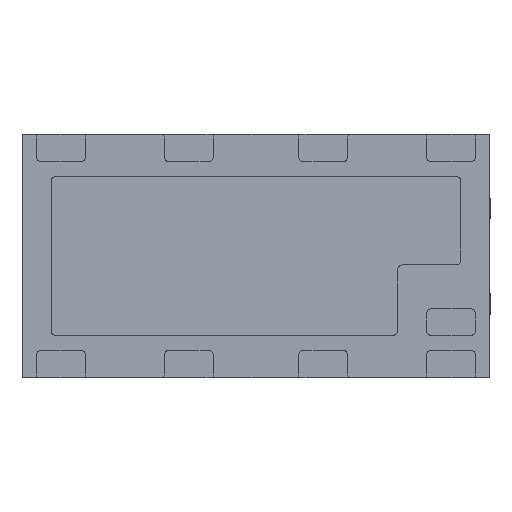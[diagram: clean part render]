
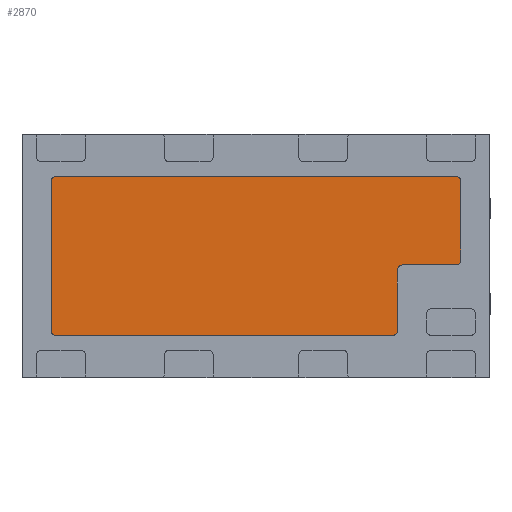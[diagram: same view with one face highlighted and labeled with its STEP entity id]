
A CAD part, front view. The second image highlights one B-rep face of the part: STEP entity #2870.
In plain terms, the highlighted planar face has unit normal (0, -1, 0).
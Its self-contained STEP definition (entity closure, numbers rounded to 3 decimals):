
#39=CIRCLE('',#2987,0.05);
#41=CIRCLE('',#2991,0.05);
#43=CIRCLE('',#2995,0.05);
#91=CIRCLE('',#3083,0.05);
#93=CIRCLE('',#3087,0.05);
#95=CIRCLE('',#3091,0.05);
#226=FACE_OUTER_BOUND('',#376,.T.);
#376=EDGE_LOOP('',(#2120,#2121,#2122,#2123,#2124,#2125,#2126,#2127,#2128,
#2129,#2130,#2131));
#480=LINE('',#4062,#819);
#485=LINE('',#4075,#824);
#489=LINE('',#4087,#828);
#579=LINE('',#4381,#918);
#583=LINE('',#4393,#922);
#587=LINE('',#4405,#926);
#819=VECTOR('',#3249,10.);
#824=VECTOR('',#3262,10.);
#828=VECTOR('',#3274,10.);
#918=VECTOR('',#3540,10.);
#922=VECTOR('',#3552,10.);
#926=VECTOR('',#3564,10.);
#1159=VERTEX_POINT('',#4059);
#1160=VERTEX_POINT('',#4061);
#1162=VERTEX_POINT('',#4067);
#1164=VERTEX_POINT('',#4073);
#1166=VERTEX_POINT('',#4079);
#1168=VERTEX_POINT('',#4085);
#1170=VERTEX_POINT('',#4091);
#1284=VERTEX_POINT('',#4379);
#1286=VERTEX_POINT('',#4385);
#1288=VERTEX_POINT('',#4391);
#1290=VERTEX_POINT('',#4397);
#1292=VERTEX_POINT('',#4403);
#1446=EDGE_CURVE('',#1160,#1159,#480,.T.);
#1450=EDGE_CURVE('',#1159,#1162,#39,.T.);
#1453=EDGE_CURVE('',#1162,#1164,#485,.T.);
#1456=EDGE_CURVE('',#1164,#1166,#41,.T.);
#1459=EDGE_CURVE('',#1166,#1168,#489,.T.);
#1462=EDGE_CURVE('',#1168,#1170,#43,.T.);
#1597=EDGE_CURVE('',#1170,#1284,#579,.T.);
#1600=EDGE_CURVE('',#1284,#1286,#91,.T.);
#1603=EDGE_CURVE('',#1286,#1288,#583,.T.);
#1606=EDGE_CURVE('',#1288,#1290,#93,.T.);
#1609=EDGE_CURVE('',#1290,#1292,#587,.T.);
#1611=EDGE_CURVE('',#1292,#1160,#95,.T.);
#2120=ORIENTED_EDGE('',*,*,#1462,.T.);
#2121=ORIENTED_EDGE('',*,*,#1597,.T.);
#2122=ORIENTED_EDGE('',*,*,#1600,.T.);
#2123=ORIENTED_EDGE('',*,*,#1603,.T.);
#2124=ORIENTED_EDGE('',*,*,#1606,.T.);
#2125=ORIENTED_EDGE('',*,*,#1609,.T.);
#2126=ORIENTED_EDGE('',*,*,#1611,.T.);
#2127=ORIENTED_EDGE('',*,*,#1446,.T.);
#2128=ORIENTED_EDGE('',*,*,#1450,.T.);
#2129=ORIENTED_EDGE('',*,*,#1453,.T.);
#2130=ORIENTED_EDGE('',*,*,#1456,.T.);
#2131=ORIENTED_EDGE('',*,*,#1459,.T.);
#2724=PLANE('',#3116);
#2870=ADVANCED_FACE('',(#226),#2724,.T.);
#2987=AXIS2_PLACEMENT_3D('',#4069,#3256,#3257);
#2991=AXIS2_PLACEMENT_3D('',#4081,#3268,#3269);
#2995=AXIS2_PLACEMENT_3D('',#4093,#3280,#3281);
#3083=AXIS2_PLACEMENT_3D('',#4387,#3546,#3547);
#3087=AXIS2_PLACEMENT_3D('',#4399,#3558,#3559);
#3091=AXIS2_PLACEMENT_3D('',#4408,#3569,#3570);
#3116=AXIS2_PLACEMENT_3D('',#4475,#3641,#3642);
#3249=DIRECTION('',(0.,0.,-1.));
#3256=DIRECTION('center_axis',(0.,-1.,0.));
#3257=DIRECTION('ref_axis',(-1.,0.,0.));
#3262=DIRECTION('',(1.,0.,0.));
#3268=DIRECTION('center_axis',(0.,-1.,0.));
#3269=DIRECTION('ref_axis',(0.,0.,-1.));
#3274=DIRECTION('',(0.,0.,1.));
#3280=DIRECTION('center_axis',(0.,1.,0.));
#3281=DIRECTION('ref_axis',(0.,0.,-1.));
#3540=DIRECTION('',(1.,0.,0.));
#3546=DIRECTION('center_axis',(0.,-1.,0.));
#3547=DIRECTION('ref_axis',(0.,0.,-1.));
#3552=DIRECTION('',(0.,0.,1.));
#3558=DIRECTION('center_axis',(0.,-1.,0.));
#3559=DIRECTION('ref_axis',(1.,0.,0.));
#3564=DIRECTION('',(-1.,0.,0.));
#3569=DIRECTION('center_axis',(0.,-1.,0.));
#3570=DIRECTION('ref_axis',(0.,0.,1.));
#3641=DIRECTION('center_axis',(0.,-1.,0.));
#3642=DIRECTION('ref_axis',(0.,0.,-1.));
#4059=CARTESIAN_POINT('',(-2.1,0.,-0.765));
#4061=CARTESIAN_POINT('',(-2.1,0.,0.765));
#4062=CARTESIAN_POINT('',(-2.1,0.,-0.341));
#4067=CARTESIAN_POINT('',(-2.05,0.,-0.815));
#4069=CARTESIAN_POINT('Origin',(-2.05,0.,-0.765));
#4073=CARTESIAN_POINT('',(1.4,0.,-0.815));
#4075=CARTESIAN_POINT('',(0.631,0.,-0.815));
#4079=CARTESIAN_POINT('',(1.45,0.,-0.765));
#4081=CARTESIAN_POINT('Origin',(1.4,0.,-0.765));
#4085=CARTESIAN_POINT('',(1.45,0.,-0.142));
#4087=CARTESIAN_POINT('',(1.45,0.,-0.029));
#4091=CARTESIAN_POINT('',(1.5,0.,-0.092));
#4093=CARTESIAN_POINT('Origin',(1.5,0.,-0.142));
#4379=CARTESIAN_POINT('',(2.05,0.,-0.092));
#4381=CARTESIAN_POINT('',(0.956,0.,-0.092));
#4385=CARTESIAN_POINT('',(2.1,0.,-0.042));
#4387=CARTESIAN_POINT('Origin',(2.05,0.,-0.042));
#4391=CARTESIAN_POINT('',(2.1,0.,0.765));
#4393=CARTESIAN_POINT('',(2.1,0.,0.424));
#4397=CARTESIAN_POINT('',(2.05,0.,0.815));
#4399=CARTESIAN_POINT('Origin',(2.05,0.,0.765));
#4403=CARTESIAN_POINT('',(-2.05,0.,0.815));
#4405=CARTESIAN_POINT('',(-1.094,0.,0.815));
#4408=CARTESIAN_POINT('Origin',(-2.05,0.,0.765));
#4475=CARTESIAN_POINT('Origin',(-0.138,0.,0.083));
